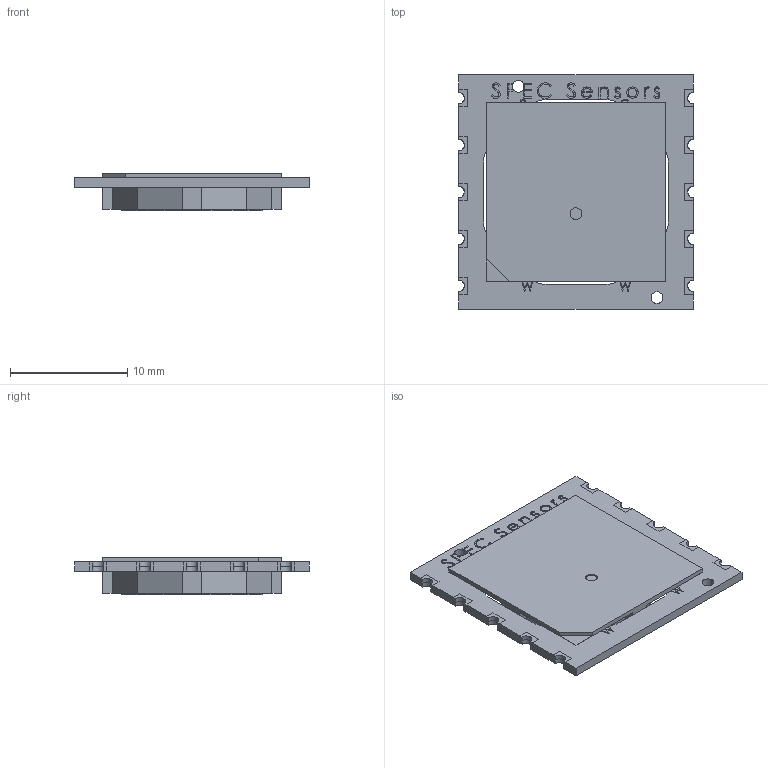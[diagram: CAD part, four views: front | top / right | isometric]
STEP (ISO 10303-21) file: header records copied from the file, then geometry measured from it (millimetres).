
FILE_DESCRIPTION (( 'STEP AP214' ), '1' );
FILE_NAME ('110-205 STEP.STEP', '2023-06-20T21:32:32', ( '' ), ( '' ), 'SwSTEP 2.0', 'SolidWorks 2017', '' );
FILE_SCHEMA (( 'AUTOMOTIVE_DESIGN' ));
Length unit declared in the file: millimetre
Products named in the file (4): 981-014; 100-202 STEP; Zebra Barcode; 110-205 STEP
Assembly tree (3 placements, depth 2):
  110-205 STEP
    100-202 STEP
    Zebra Barcode
    981-014
Bounding box: 20.01 x 20 x 3.18 mm (x, y, z)
Volume: 623.2 mm3; surface area: 1529.4 mm2
Topology: 32 solids, 32 shells, 579 faces, 1546 edges, 1036 vertices
Faces by surface type: plane 360, bspline 123, cylinder 96
Full cylindrical faces by diameter (mm): 0.75 x24, 1 x11, 12 x1
Entity records: 27425 total; most frequent: CARTESIAN_POINT 9278, ORIENTED_EDGE 2988, DIRECTION 2364, EDGE_CURVE 1494, VECTOR 1056, LINE 1056, VERTEX_POINT 1020, EDGE_LOOP 696
